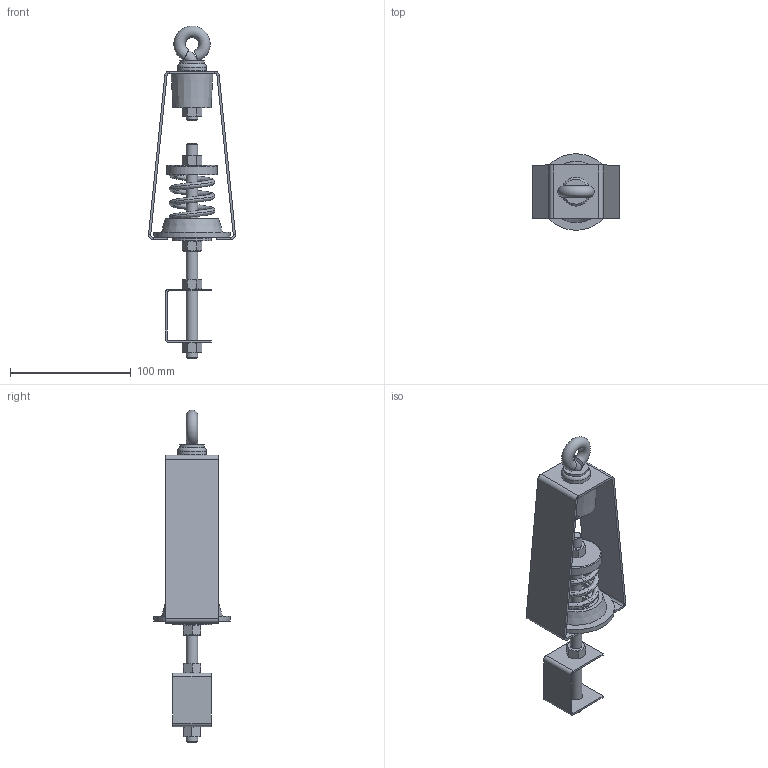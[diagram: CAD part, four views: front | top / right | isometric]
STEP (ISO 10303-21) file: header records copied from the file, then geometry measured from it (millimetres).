
FILE_DESCRIPTION(/* description */ (''),/* implementation_level */ '2;1');
FILE_NAME(/* name */ 'C:\001_Work\Designs\HANGER BOXES\ARCHITECTURAL CEILING HANGERS\W30NCC-X\W30NCC-X-210.stp',/* time_stamp */ '2016-01-28T10:21:13-05:00',/* author */ ('rramoutar'),/* organization */ ('Mason Industries Inc.'),/* preprocessor_version */ 'ST-DEVELOPER v15.6',/* originating_system */ 'Autodesk Inventor 2015',/* authorisation */ '');
FILE_SCHEMA (('CONFIG_CONTROL_DESIGN'));
Length unit declared in the file: inch
Products named in the file (1): W30NCC-X-210
Bounding box: 72.19 x 63.49 x 275.43 mm (x, y, z)
Volume: 117945.5 mm3; surface area: 92892.2 mm2
Topology: 18 solids, 18 shells, 269 faces, 559 edges, 334 vertices
Faces by surface type: plane 122, cone 75, cylinder 46, bspline 22, torus 4
Full cylindrical faces by diameter (mm): 7.798 x5, 9.525 x3, 10.312 x1, 10.319 x2, 11.112 x3, 17.462 x2, 20.625 x1, 20.637 x2, 23.812 x1, 25.4 x1, 26.987 x2, 28.575 x2, 31.75 x1, 38.1 x1, 38.894 x1, 39.687 x1, 39.688 x1, 41.906 x1, 63.5 x1
Entity records: 13302 total; most frequent: CARTESIAN_POINT 7803, DIRECTION 1002, ORIENTED_EDGE 998, EDGE_CURVE 499, AXIS2_PLACEMENT_3D 423, EDGE_LOOP 362, VERTEX_POINT 325, STYLED_ITEM 287
